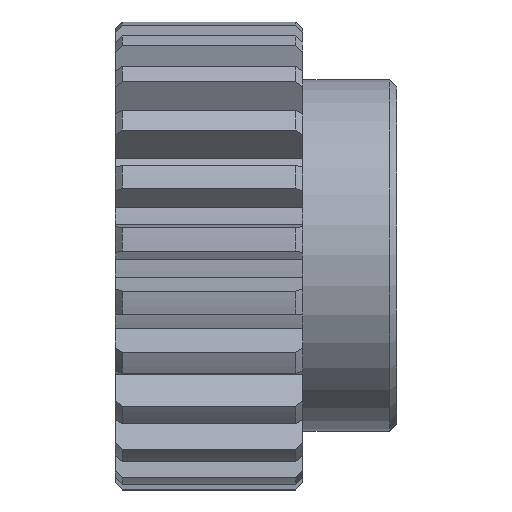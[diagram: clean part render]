
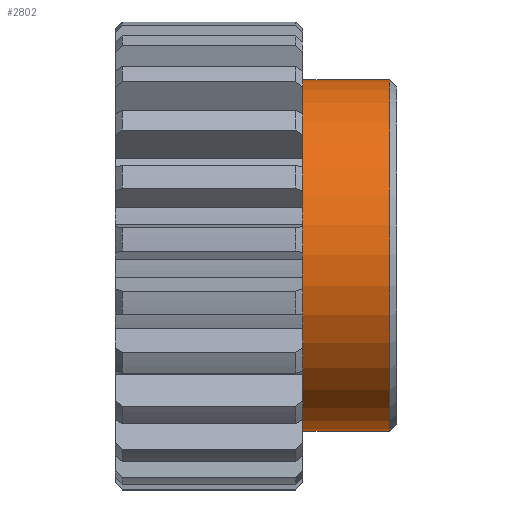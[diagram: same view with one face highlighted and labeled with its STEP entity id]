
A CAD part, top view. The second image highlights one B-rep face of the part: STEP entity #2802.
In plain terms, the highlighted cylindrical face has radius 37.5 mm (diameter 75 mm), a full revolution.
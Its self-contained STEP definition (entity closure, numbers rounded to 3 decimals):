
#64=FACE_BOUND('',#500,.T.);
#350=FACE_OUTER_BOUND('',#499,.T.);
#499=EDGE_LOOP('',(#2492));
#500=EDGE_LOOP('',(#2493));
#966=CIRCLE('',#2947,37.5);
#1036=CIRCLE('',#3089,37.5);
#1309=VERTEX_POINT('',#4724);
#1318=VERTEX_POINT('',#4893);
#1662=EDGE_CURVE('',#1309,#1309,#966,.T.);
#1742=EDGE_CURVE('',#1318,#1318,#1036,.T.);
#2492=ORIENTED_EDGE('',*,*,#1662,.F.);
#2493=ORIENTED_EDGE('',*,*,#1742,.F.);
#2661=CYLINDRICAL_SURFACE('',#3091,37.5);
#2802=ADVANCED_FACE('',(#350,#64),#2661,.T.);
#2947=AXIS2_PLACEMENT_3D('',#4725,#3552,#3553);
#3089=AXIS2_PLACEMENT_3D('',#4894,#3842,#3843);
#3091=AXIS2_PLACEMENT_3D('',#4897,#3846,#3847);
#3552=DIRECTION('center_axis',(-1.,0.,0.));
#3553=DIRECTION('ref_axis',(0.,0.,1.));
#3842=DIRECTION('center_axis',(1.,0.,0.));
#3843=DIRECTION('ref_axis',(0.,0.,1.));
#3846=DIRECTION('center_axis',(1.,0.,0.));
#3847=DIRECTION('ref_axis',(0.,0.,1.));
#4724=CARTESIAN_POINT('',(40.,0.,-37.5));
#4725=CARTESIAN_POINT('Origin',(40.,0.,0.));
#4893=CARTESIAN_POINT('',(58.5,0.,-37.5));
#4894=CARTESIAN_POINT('Origin',(58.5,0.,0.));
#4897=CARTESIAN_POINT('Origin',(40.,0.,0.));
